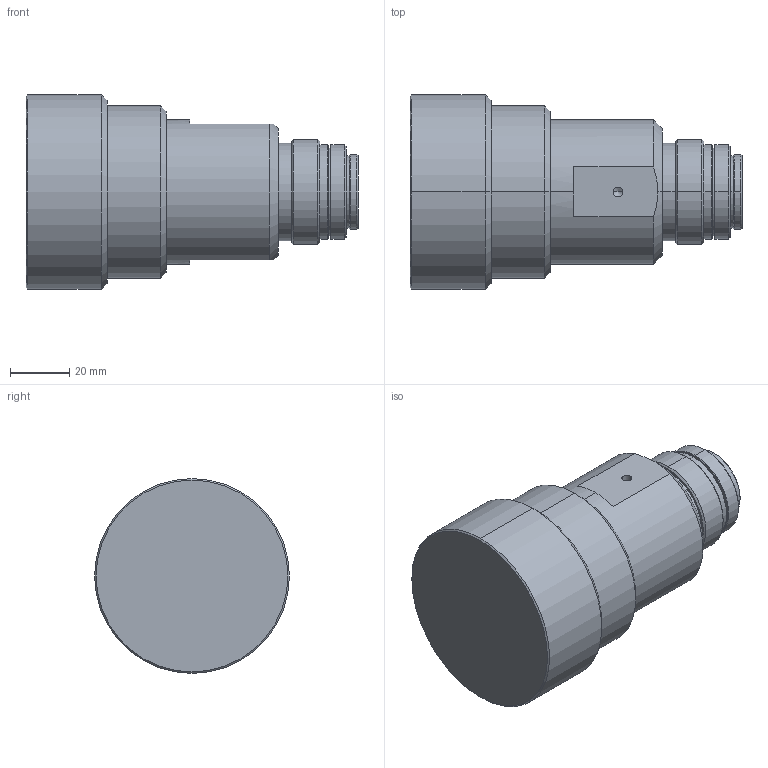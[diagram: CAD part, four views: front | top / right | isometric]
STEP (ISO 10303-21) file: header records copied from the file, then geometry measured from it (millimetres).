
FILE_DESCRIPTION (( 'STEP AP203' ), '1' );
FILE_NAME ('VS-TCM022-150_S.STEP', '2015-08-28T05:58:49', ( 'miura_vst' ), ( '' ), 'SwSTEP 2.0', 'SolidWorks 2015', '' );
FILE_SCHEMA (( 'CONFIG_CONTROL_DESIGN' ));
Length unit declared in the file: millimetre
Products named in the file (1): VS-TCM022-150_S
Bounding box: 112.5 x 66 x 66 mm (x, y, z)
Volume: 237426.5 mm3; surface area: 25119.9 mm2
Topology: 1 solids, 1 shells, 91 faces, 190 edges, 112 vertices
Faces by surface type: cone 40, cylinder 32, plane 19
Entity records: 2493 total; most frequent: DIRECTION 470, CARTESIAN_POINT 418, ORIENTED_EDGE 372, AXIS2_PLACEMENT_3D 196, EDGE_CURVE 186, VERTEX_POINT 112, EDGE_LOOP 106, CIRCLE 104
